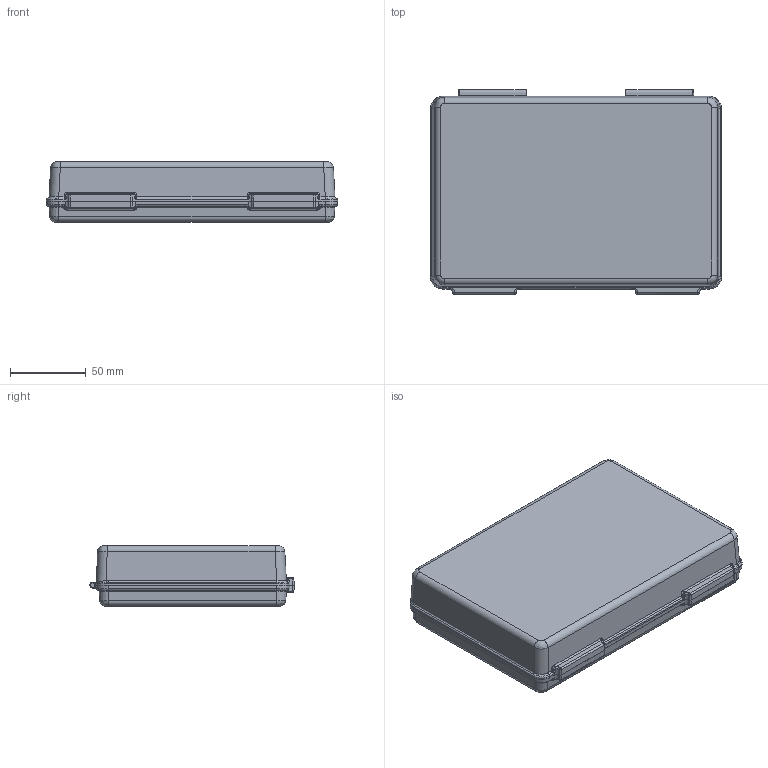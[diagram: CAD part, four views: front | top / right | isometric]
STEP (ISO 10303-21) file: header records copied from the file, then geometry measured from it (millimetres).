
FILE_DESCRIPTION(/* description */ (''),/* implementation_level */ '2;1');
FILE_NAME(/* name */ 'B1_Case_OT-UT.stp',/* time_stamp */ '2014-10-06T09:36:52+02:00',/* author */ (''),/* organization */ (''),/* preprocessor_version */ 'ST-DEVELOPER v15',/* originating_system */ 'SIEMENS PLM Software NX 8.5',/* authorisation */ '');
FILE_SCHEMA (('AUTOMOTIVE_DESIGN { 1 0 10303 214 3 1 1 1 }'));
Length unit declared in the file: millimetre
Products named in the file (1): pk1A9099730gwp
Bounding box: 192.2 x 134.9 x 40 mm (x, y, z)
Volume: 145491.3 mm3; surface area: 141526 mm2
Topology: 2 solids, 2 shells, 427 faces, 1019 edges, 574 vertices
Faces by surface type: bspline 136, cylinder 130, plane 87, torus 36, cone 26, sphere 12
Entity records: 18572 total; most frequent: CARTESIAN_POINT 9555, ORIENTED_EDGE 1986, DIRECTION 1767, EDGE_CURVE 993, AXIS2_PLACEMENT_3D 695, VERTEX_POINT 574, EDGE_LOOP 431, ADVANCED_FACE 427
